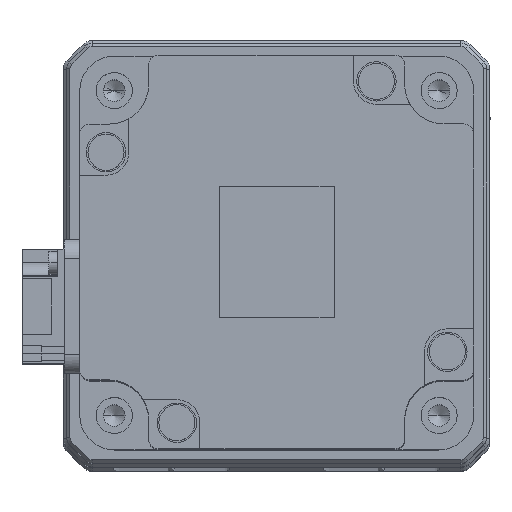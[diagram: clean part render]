
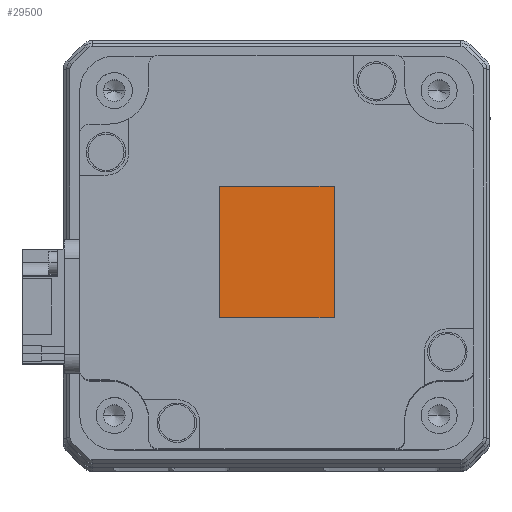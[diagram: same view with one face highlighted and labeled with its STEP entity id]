
A CAD part, top view. The second image highlights one B-rep face of the part: STEP entity #29500.
In plain terms, the highlighted planar face has unit normal (0, 0, 1) as drawn and (0, 0, -1) by its records, which use the part's own axes.
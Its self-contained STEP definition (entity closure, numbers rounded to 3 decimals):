
#756 = EDGE_CURVE ( 'NONE', #32054, #22590, #14479, .T. ) ;
#914 = VERTEX_POINT ( 'NONE', #1193 ) ;
#1193 = CARTESIAN_POINT ( 'NONE',  ( -10., 8.75, -98.6 ) ) ;
#1657 = DIRECTION ( 'NONE',  ( 0., 1., 0. ) ) ;
#2011 = CARTESIAN_POINT ( 'NONE',  ( 10., -8.75, -98.6 ) ) ;
#2522 = LINE ( 'NONE', #28460, #8647 ) ;
#2565 = DIRECTION ( 'NONE',  ( 0., -1., 0. ) ) ;
#3235 = LINE ( 'NONE', #20520, #9372 ) ;
#3507 = EDGE_CURVE ( 'NONE', #4315, #914, #5749, .T. ) ;
#4315 = VERTEX_POINT ( 'NONE', #27591 ) ;
#4620 = DIRECTION ( 'NONE',  ( -1., 0., 0. ) ) ;
#5001 = EDGE_CURVE ( 'NONE', #22590, #4315, #3235, .T. ) ;
#5749 = LINE ( 'NONE', #6931, #22352 ) ;
#5903 = EDGE_LOOP ( 'NONE', ( #6709, #24465, #18218, #16335 ) ) ;
#6709 = ORIENTED_EDGE ( 'NONE', *, *, #3507, .T. ) ;
#6931 = CARTESIAN_POINT ( 'NONE',  ( -10., 8.75, -98.6 ) ) ;
#7605 = VECTOR ( 'NONE', #2565, 1000. ) ;
#8647 = VECTOR ( 'NONE', #15561, 1000. ) ;
#9372 = VECTOR ( 'NONE', #20402, 1000. ) ;
#10915 = FACE_OUTER_BOUND ( 'NONE', #5903, .T. ) ;
#14479 = LINE ( 'NONE', #20600, #7605 ) ;
#15561 = DIRECTION ( 'NONE',  ( 1., 0., 0. ) ) ;
#16335 = ORIENTED_EDGE ( 'NONE', *, *, #5001, .T. ) ;
#18100 = EDGE_CURVE ( 'NONE', #914, #32054, #2522, .T. ) ;
#18218 = ORIENTED_EDGE ( 'NONE', *, *, #756, .T. ) ;
#20026 = PLANE ( 'NONE',  #26111 ) ;
#20152 = DIRECTION ( 'NONE',  ( 0., 0., -1. ) ) ;
#20402 = DIRECTION ( 'NONE',  ( -1., 0., 0. ) ) ;
#20520 = CARTESIAN_POINT ( 'NONE',  ( 10., -8.75, -98.6 ) ) ;
#20600 = CARTESIAN_POINT ( 'NONE',  ( 10., 8.75, -98.6 ) ) ;
#21011 = CARTESIAN_POINT ( 'NONE',  ( 10., -8.75, -98.6 ) ) ;
#22352 = VECTOR ( 'NONE', #1657, 1000. ) ;
#22590 = VERTEX_POINT ( 'NONE', #21011 ) ;
#24465 = ORIENTED_EDGE ( 'NONE', *, *, #18100, .T. ) ;
#25242 = CARTESIAN_POINT ( 'NONE',  ( 10., 8.75, -98.6 ) ) ;
#26111 = AXIS2_PLACEMENT_3D ( 'NONE', #2011, #20152, #4620 ) ;
#27591 = CARTESIAN_POINT ( 'NONE',  ( -10., -8.75, -98.6 ) ) ;
#28460 = CARTESIAN_POINT ( 'NONE',  ( 10., 8.75, -98.6 ) ) ;
#29500 = ADVANCED_FACE ( 'NONE', ( #10915 ), #20026, .T. ) ;
#32054 = VERTEX_POINT ( 'NONE', #25242 ) ;
